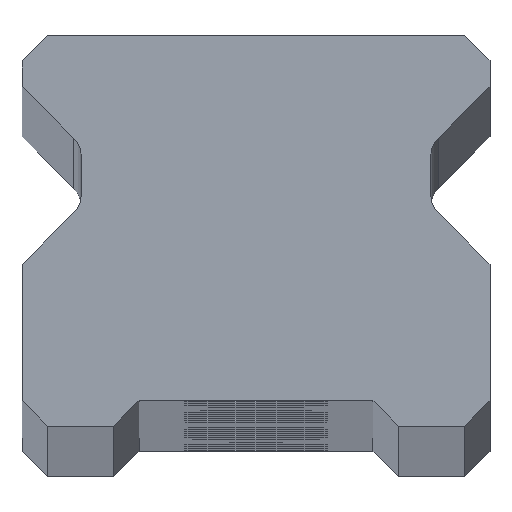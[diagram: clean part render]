
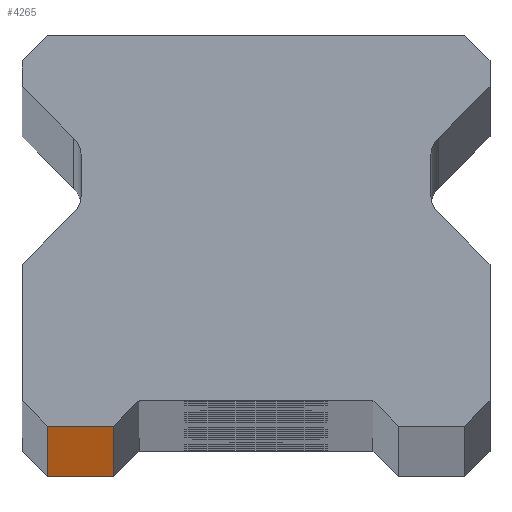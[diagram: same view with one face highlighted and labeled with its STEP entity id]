
A CAD part, top view. The second image highlights one B-rep face of the part: STEP entity #4265.
In plain terms, the highlighted planar face has unit normal (0, -1, 0).
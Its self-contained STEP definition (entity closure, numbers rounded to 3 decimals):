
#56 = DIRECTION ( 'NONE',  ( 0., 0., -1. ) ) ;
#141 = CARTESIAN_POINT ( 'NONE',  ( -7., 0., -710. ) ) ;
#149 = LINE ( 'NONE', #3459, #3761 ) ;
#159 = CARTESIAN_POINT ( 'NONE',  ( -10.25, 0., -710. ) ) ;
#206 = DIRECTION ( 'NONE',  ( 0., 1., 0. ) ) ;
#305 = VERTEX_POINT ( 'NONE', #3822 ) ;
#316 = VERTEX_POINT ( 'NONE', #159 ) ;
#404 = ORIENTED_EDGE ( 'NONE', *, *, #3875, .T. ) ;
#502 = CARTESIAN_POINT ( 'NONE',  ( 11.5, 0., 710. ) ) ;
#632 = VECTOR ( 'NONE', #56, 1000. ) ;
#644 = EDGE_LOOP ( 'NONE', ( #2297, #2369, #1003, #404 ) ) ;
#904 = VERTEX_POINT ( 'NONE', #2677 ) ;
#1003 = ORIENTED_EDGE ( 'NONE', *, *, #1542, .F. ) ;
#1136 = VERTEX_POINT ( 'NONE', #4198 ) ;
#1200 = LINE ( 'NONE', #1460, #632 ) ;
#1460 = CARTESIAN_POINT ( 'NONE',  ( -10.25, 0., 710. ) ) ;
#1508 = DIRECTION ( 'NONE',  ( 0., 0., 1. ) ) ;
#1542 = EDGE_CURVE ( 'NONE', #305, #904, #3202, .T. ) ;
#1578 = PLANE ( 'NONE',  #2839 ) ;
#2247 = EDGE_CURVE ( 'NONE', #1136, #904, #3022, .T. ) ;
#2297 = ORIENTED_EDGE ( 'NONE', *, *, #3488, .T. ) ;
#2306 = VECTOR ( 'NONE', #1508, 1000. ) ;
#2369 = ORIENTED_EDGE ( 'NONE', *, *, #2247, .T. ) ;
#2677 = CARTESIAN_POINT ( 'NONE',  ( -7., 0., 710. ) ) ;
#2750 = VECTOR ( 'NONE', #3683, 1000. ) ;
#2839 = AXIS2_PLACEMENT_3D ( 'NONE', #502, #206, #2967 ) ;
#2967 = DIRECTION ( 'NONE',  ( -1., 0., 0. ) ) ;
#3022 = LINE ( 'NONE', #141, #2306 ) ;
#3202 = LINE ( 'NONE', #3260, #2750 ) ;
#3260 = CARTESIAN_POINT ( 'NONE',  ( 11.5, 0., 710. ) ) ;
#3459 = CARTESIAN_POINT ( 'NONE',  ( 11.5, 0., -710. ) ) ;
#3488 = EDGE_CURVE ( 'NONE', #316, #1136, #149, .T. ) ;
#3683 = DIRECTION ( 'NONE',  ( 1., 0., 0. ) ) ;
#3761 = VECTOR ( 'NONE', #4141, 1000. ) ;
#3822 = CARTESIAN_POINT ( 'NONE',  ( -10.25, 0., 710. ) ) ;
#3875 = EDGE_CURVE ( 'NONE', #305, #316, #1200, .T. ) ;
#4141 = DIRECTION ( 'NONE',  ( 1., 0., 0. ) ) ;
#4198 = CARTESIAN_POINT ( 'NONE',  ( -7., 0., -710. ) ) ;
#4265 = ADVANCED_FACE ( 'NONE', ( #4588 ), #1578, .F. ) ;
#4588 = FACE_OUTER_BOUND ( 'NONE', #644, .T. ) ;
